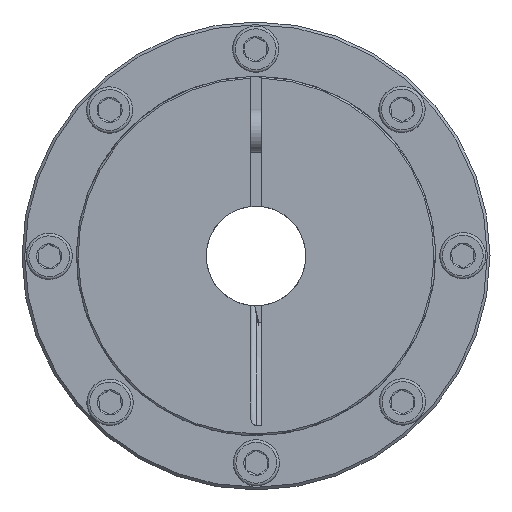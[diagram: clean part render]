
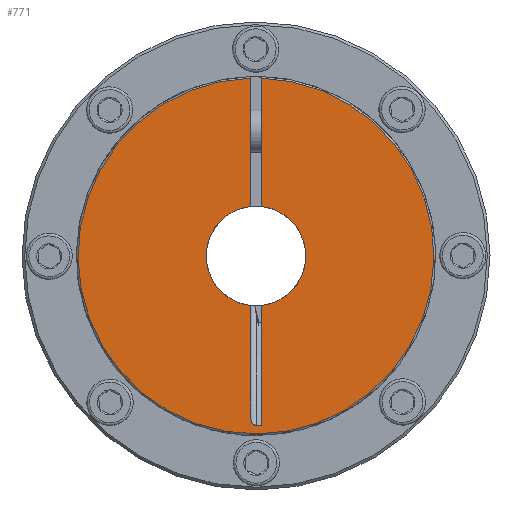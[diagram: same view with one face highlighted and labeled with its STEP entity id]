
A CAD part, left-side view. The second image highlights one B-rep face of the part: STEP entity #771.
In plain terms, the highlighted planar face has unit normal (-1, 0, 0) as drawn and (0, 0, 1) by its records, which use the part's own axes.
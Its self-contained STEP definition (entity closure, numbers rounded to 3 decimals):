
#771 = ADVANCED_FACE( 'NONE', ( #1538 ), #1539, .T. );
#1538 = FACE_OUTER_BOUND( '', #2333, .T. );
#1539 = PLANE( '', #2334 );
#2333 = EDGE_LOOP( '', ( #3568, #3569, #3570, #3571, #3572, #3573, #3574, #3575, #3576 ) );
#2334 = AXIS2_PLACEMENT_3D( '', #3577, #3578, #3579 );
#3568 = ORIENTED_EDGE( '', *, *, #4007, .F. );
#3569 = ORIENTED_EDGE( '', *, *, #4058, .F. );
#3570 = ORIENTED_EDGE( '', *, *, #4337, .T. );
#3571 = ORIENTED_EDGE( '', *, *, #4338, .T. );
#3572 = ORIENTED_EDGE( '', *, *, #4094, .F. );
#3573 = ORIENTED_EDGE( '', *, *, #4330, .T. );
#3574 = ORIENTED_EDGE( '', *, *, #4161, .F. );
#3575 = ORIENTED_EDGE( '', *, *, #4106, .T. );
#3576 = ORIENTED_EDGE( '', *, *, #3980, .F. );
#3577 = CARTESIAN_POINT( '', ( 0., 0., 24. ) );
#3578 = DIRECTION( '', ( 0., 0., 1. ) );
#3579 = DIRECTION( '', ( 1., 0., 0. ) );
#3980 = EDGE_CURVE( '', #4515, #4512, #4517, .F. );
#4007 = EDGE_CURVE( '', #4560, #4515, #4562, .T. );
#4058 = EDGE_CURVE( 'NONE', #4643, #4560, #4645, .T. );
#4094 = EDGE_CURVE( '', #4698, #4700, #4701, .T. );
#4106 = EDGE_CURVE( 'NONE', #4719, #4512, #4720, .T. );
#4161 = EDGE_CURVE( 'NONE', #4719, #4806, #4807, .F. );
#4330 = EDGE_CURVE( '', #4698, #4806, #5035, .T. );
#4337 = EDGE_CURVE( 'NONE', #4643, #5043, #5044, .T. );
#4338 = EDGE_CURVE( 'NONE', #5043, #4700, #5045, .T. );
#4512 = VERTEX_POINT( 'NONE', #5258 );
#4515 = VERTEX_POINT( '', #5261 );
#4517 = LINE( '', #5264, #5265 );
#4560 = VERTEX_POINT( '', #5314 );
#4562 = CIRCLE( '', #5317, 9.154 );
#4643 = VERTEX_POINT( 'NONE', #5420 );
#4645 = LINE( '', #5425, #5426 );
#4698 = VERTEX_POINT( '', #5494 );
#4700 = VERTEX_POINT( '', #5497 );
#4701 = CIRCLE( '', #5498, 9.154 );
#4719 = VERTEX_POINT( 'NONE', #5520 );
#4720 = B_SPLINE_CURVE_WITH_KNOTS( '', 3, ( #5521, #5522, #5523, #5524, #5525, #5526, #5527, #5528, #5529, #5530 ), .UNSPECIFIED., .F., .F., ( 4, 2, 2, 2, 4 ), ( 0., 0., 0.001, 0.001, 0.002 ), .UNSPECIFIED. );
#4806 = VERTEX_POINT( 'NONE', #5638 );
#4807 = LINE( '', #5639, #5640 );
#5035 = LINE( '', #6084, #6085 );
#5043 = VERTEX_POINT( 'NONE', #6096 );
#5044 = CIRCLE( '', #6097, 32.7 );
#5045 = LINE( '', #6098, #6099 );
#5258 = CARTESIAN_POINT( '', ( -29.782, 1., 24. ) );
#5261 = CARTESIAN_POINT( '', ( -9.1, 1., 24. ) );
#5264 = CARTESIAN_POINT( '', ( 16.5, 1., 24. ) );
#5265 = VECTOR( '', #6297, 1000. );
#5314 = CARTESIAN_POINT( '', ( 9.1, 1., 24. ) );
#5317 = AXIS2_PLACEMENT_3D( '', #6345, #6346, #6347 );
#5420 = CARTESIAN_POINT( '', ( 32.685, 1., 24. ) );
#5425 = CARTESIAN_POINT( '', ( 47.109, 1., 24. ) );
#5426 = VECTOR( '', #6420, 1000. );
#5494 = CARTESIAN_POINT( '', ( -9.1, -1., 24. ) );
#5497 = CARTESIAN_POINT( '', ( 9.1, -1., 24. ) );
#5498 = AXIS2_PLACEMENT_3D( '', #6473, #6474, #6475 );
#5520 = CARTESIAN_POINT( '', ( -31.103, 0., 24. ) );
#5521 = CARTESIAN_POINT( '', ( -31.103, 0., 24. ) );
#5522 = CARTESIAN_POINT( '', ( -31.103, 0.155, 24. ) );
#5523 = CARTESIAN_POINT( '', ( -31.054, 0.305, 24. ) );
#5524 = CARTESIAN_POINT( '', ( -30.932, 0.498, 24. ) );
#5525 = CARTESIAN_POINT( '', ( -30.882, 0.558, 24. ) );
#5526 = CARTESIAN_POINT( '', ( -30.774, 0.665, 24. ) );
#5527 = CARTESIAN_POINT( '', ( -30.714, 0.712, 24. ) );
#5528 = CARTESIAN_POINT( '', ( -30.394, 0.924, 24. ) );
#5529 = CARTESIAN_POINT( '', ( -30.089, 1., 24. ) );
#5530 = CARTESIAN_POINT( '', ( -29.782, 1., 24. ) );
#5638 = CARTESIAN_POINT( '', ( -31.103, -1., 24. ) );
#5639 = CARTESIAN_POINT( '', ( -31.103, -1., 24. ) );
#5640 = VECTOR( '', #6572, 1000. );
#6084 = CARTESIAN_POINT( '', ( 0., -1., 24. ) );
#6085 = VECTOR( '', #6781, 1000. );
#6096 = CARTESIAN_POINT( '', ( 32.685, -1., 24. ) );
#6097 = AXIS2_PLACEMENT_3D( '', #6785, #6786, #6787 );
#6098 = CARTESIAN_POINT( '', ( 0., -1., 24. ) );
#6099 = VECTOR( '', #6788, 1000. );
#6297 = DIRECTION( '', ( 1., 0., 0. ) );
#6345 = CARTESIAN_POINT( '', ( 0., 0., 24. ) );
#6346 = DIRECTION( '', ( 0., 0., 1. ) );
#6347 = DIRECTION( '', ( 1., 0., 0. ) );
#6420 = DIRECTION( '', ( -1., 0., 0. ) );
#6473 = CARTESIAN_POINT( '', ( 0., 0., 24. ) );
#6474 = DIRECTION( '', ( 0., 0., 1. ) );
#6475 = DIRECTION( '', ( 1., 0., 0. ) );
#6572 = DIRECTION( '', ( 0., 1., 0. ) );
#6781 = DIRECTION( '', ( -1., 0., 0. ) );
#6785 = CARTESIAN_POINT( '', ( 0., 0., 24. ) );
#6786 = DIRECTION( '', ( 0., 0., 1. ) );
#6787 = DIRECTION( '', ( 1., 0., 0. ) );
#6788 = DIRECTION( '', ( -1., 0., 0. ) );
